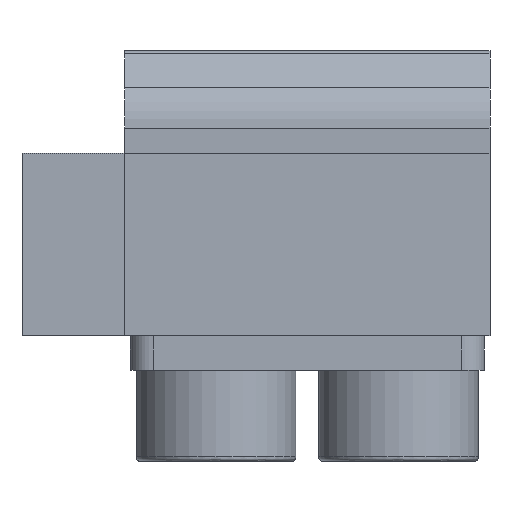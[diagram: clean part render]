
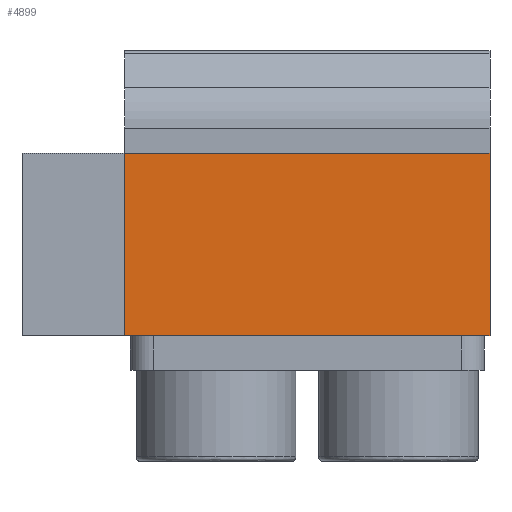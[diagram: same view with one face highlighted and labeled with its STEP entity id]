
A CAD part, front view. The second image highlights one B-rep face of the part: STEP entity #4899.
In plain terms, the highlighted planar face has unit normal (0, -1, 0).
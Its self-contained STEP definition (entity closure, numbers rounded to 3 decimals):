
#426 = LINE ( 'NONE', #11451, #13888 ) ;
#536 = AXIS2_PLACEMENT_3D ( 'NONE', #8408, #578, #9727 ) ;
#578 = DIRECTION ( 'NONE',  ( 0., -1., 0. ) ) ;
#1773 = ORIENTED_EDGE ( 'NONE', *, *, #7046, .F. ) ;
#1798 = PLANE ( 'NONE',  #536 ) ;
#2067 = CARTESIAN_POINT ( 'NONE',  ( -32.33, -24.022, 20.904 ) ) ;
#2151 = VERTEX_POINT ( 'NONE', #11983 ) ;
#2762 = CARTESIAN_POINT ( 'NONE',  ( -24.33, -24.022, 12.904 ) ) ;
#3635 = CARTESIAN_POINT ( 'NONE',  ( -40.33, -24.022, 16.904 ) ) ;
#3747 = VECTOR ( 'NONE', #11168, 1000. ) ;
#4138 = VERTEX_POINT ( 'NONE', #9646 ) ;
#4512 = ORIENTED_EDGE ( 'NONE', *, *, #16028, .F. ) ;
#4575 = VERTEX_POINT ( 'NONE', #2762 ) ;
#4696 = DIRECTION ( 'NONE',  ( -1., 0., 0. ) ) ;
#4723 = LINE ( 'NONE', #8707, #11270 ) ;
#4899 = ADVANCED_FACE ( 'NONE', ( #15261 ), #1798, .T. ) ;
#5834 = EDGE_CURVE ( 'NONE', #4138, #2151, #13742, .T. ) ;
#6979 = ORIENTED_EDGE ( 'NONE', *, *, #8050, .F. ) ;
#7046 = EDGE_CURVE ( 'NONE', #10529, #2151, #7856, .T. ) ;
#7435 = ORIENTED_EDGE ( 'NONE', *, *, #5834, .T. ) ;
#7856 = LINE ( 'NONE', #3635, #14790 ) ;
#8050 = EDGE_CURVE ( 'NONE', #4138, #4575, #426, .T. ) ;
#8408 = CARTESIAN_POINT ( 'NONE',  ( -40.33, -24.022, 20.904 ) ) ;
#8707 = CARTESIAN_POINT ( 'NONE',  ( -34.58, -24.022, 12.904 ) ) ;
#9646 = CARTESIAN_POINT ( 'NONE',  ( -24.33, -24.022, 20.904 ) ) ;
#9727 = DIRECTION ( 'NONE',  ( 0., 0., -1. ) ) ;
#10529 = VERTEX_POINT ( 'NONE', #16884 ) ;
#11168 = DIRECTION ( 'NONE',  ( -1., 0., 0. ) ) ;
#11270 = VECTOR ( 'NONE', #4696, 1000. ) ;
#11447 = DIRECTION ( 'NONE',  ( 0., 0., 1. ) ) ;
#11451 = CARTESIAN_POINT ( 'NONE',  ( -24.33, -24.022, 16.904 ) ) ;
#11500 = EDGE_LOOP ( 'NONE', ( #1773, #4512, #6979, #7435 ) ) ;
#11983 = CARTESIAN_POINT ( 'NONE',  ( -40.33, -24.022, 20.904 ) ) ;
#13742 = LINE ( 'NONE', #2067, #3747 ) ;
#13888 = VECTOR ( 'NONE', #14070, 1000. ) ;
#14070 = DIRECTION ( 'NONE',  ( 0., 0., -1. ) ) ;
#14790 = VECTOR ( 'NONE', #11447, 1000. ) ;
#15261 = FACE_OUTER_BOUND ( 'NONE', #11500, .T. ) ;
#16028 = EDGE_CURVE ( 'NONE', #4575, #10529, #4723, .T. ) ;
#16884 = CARTESIAN_POINT ( 'NONE',  ( -40.33, -24.022, 12.904 ) ) ;
